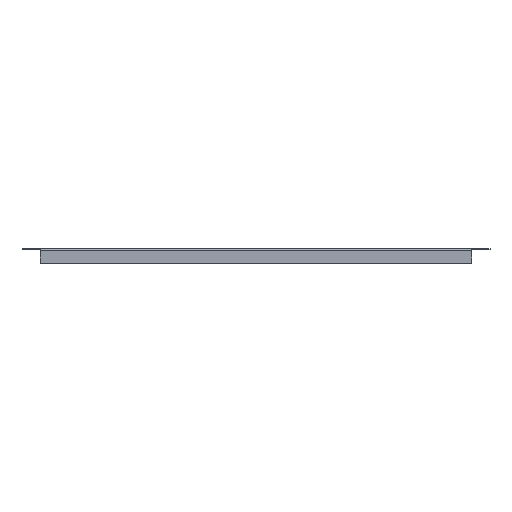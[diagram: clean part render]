
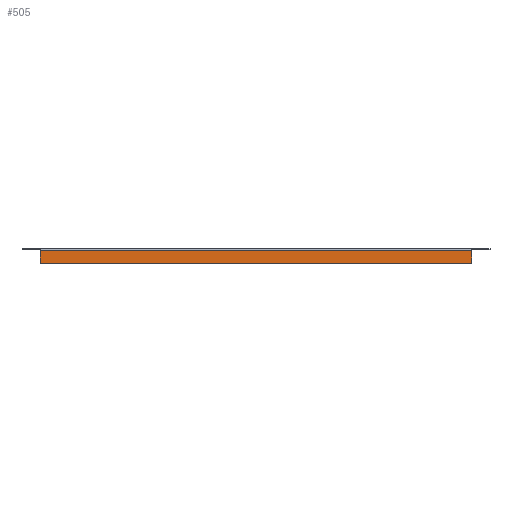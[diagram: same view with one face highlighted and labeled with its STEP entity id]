
A CAD part, front view. The second image highlights one B-rep face of the part: STEP entity #505.
In plain terms, the highlighted planar face has unit normal (0, -1, 0).
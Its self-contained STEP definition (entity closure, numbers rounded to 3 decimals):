
#4 = ORIENTED_EDGE ( 'NONE', *, *, #1546, .T. ) ;
#13 = DIRECTION ( 'NONE',  ( 0., 0., 1. ) ) ;
#26 = FACE_OUTER_BOUND ( 'NONE', #1529, .T. ) ;
#56 = DIRECTION ( 'NONE',  ( 0., 1., 0. ) ) ;
#64 = ORIENTED_EDGE ( 'NONE', *, *, #1314, .F. ) ;
#111 = EDGE_CURVE ( 'NONE', #937, #1397, #212, .T. ) ;
#212 = LINE ( 'NONE', #381, #570 ) ;
#260 = VECTOR ( 'NONE', #13, 1000. ) ;
#381 = CARTESIAN_POINT ( 'NONE',  ( 19., 0., 0. ) ) ;
#401 = DIRECTION ( 'NONE',  ( 0., 0., -1. ) ) ;
#409 = CARTESIAN_POINT ( 'NONE',  ( 19., 0., -14. ) ) ;
#423 = CARTESIAN_POINT ( 'NONE',  ( 464., 0., -14. ) ) ;
#440 = VERTEX_POINT ( 'NONE', #823 ) ;
#505 = ADVANCED_FACE ( 'NONE', ( #26 ), #680, .F. ) ;
#543 = LINE ( 'NONE', #902, #260 ) ;
#568 = AXIS2_PLACEMENT_3D ( 'NONE', #1075, #56, #1196 ) ;
#570 = VECTOR ( 'NONE', #401, 1000. ) ;
#643 = DIRECTION ( 'NONE',  ( 1., 0., 0. ) ) ;
#680 = PLANE ( 'NONE',  #568 ) ;
#797 = VECTOR ( 'NONE', #643, 1000. ) ;
#823 = CARTESIAN_POINT ( 'NONE',  ( 464., 0., -14. ) ) ;
#902 = CARTESIAN_POINT ( 'NONE',  ( 464., 0., 0. ) ) ;
#937 = VERTEX_POINT ( 'NONE', #1203 ) ;
#963 = VERTEX_POINT ( 'NONE', #1078 ) ;
#1001 = ORIENTED_EDGE ( 'NONE', *, *, #1312, .T. ) ;
#1075 = CARTESIAN_POINT ( 'NONE',  ( 464., 0., 0. ) ) ;
#1078 = CARTESIAN_POINT ( 'NONE',  ( 464., 0., -1. ) ) ;
#1089 = LINE ( 'NONE', #423, #1540 ) ;
#1115 = LINE ( 'NONE', #1412, #797 ) ;
#1196 = DIRECTION ( 'NONE',  ( 0., 0., 1. ) ) ;
#1203 = CARTESIAN_POINT ( 'NONE',  ( 19., 0., -1. ) ) ;
#1312 = EDGE_CURVE ( 'NONE', #440, #963, #543, .T. ) ;
#1314 = EDGE_CURVE ( 'NONE', #937, #963, #1115, .T. ) ;
#1337 = DIRECTION ( 'NONE',  ( 1., 0., 0. ) ) ;
#1397 = VERTEX_POINT ( 'NONE', #409 ) ;
#1412 = CARTESIAN_POINT ( 'NONE',  ( 464., 0., -1. ) ) ;
#1502 = ORIENTED_EDGE ( 'NONE', *, *, #111, .T. ) ;
#1529 = EDGE_LOOP ( 'NONE', ( #64, #1502, #4, #1001 ) ) ;
#1540 = VECTOR ( 'NONE', #1337, 1000. ) ;
#1546 = EDGE_CURVE ( 'NONE', #1397, #440, #1089, .T. ) ;
